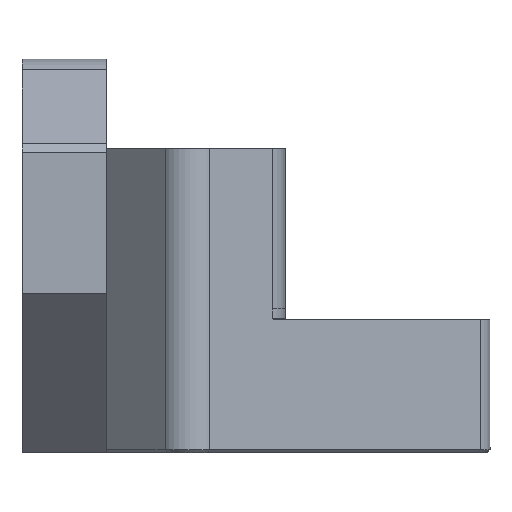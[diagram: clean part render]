
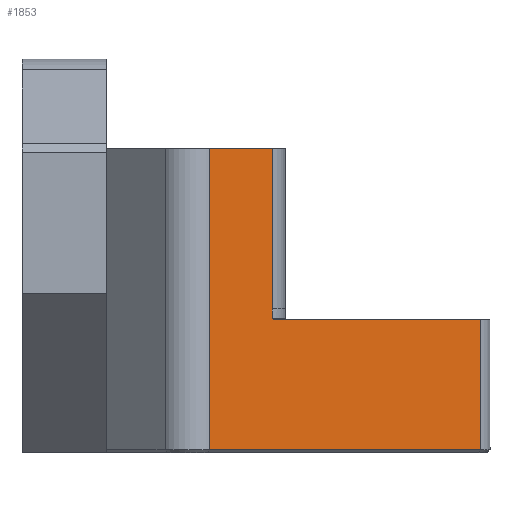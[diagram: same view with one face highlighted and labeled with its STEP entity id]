
A CAD part, left-side view. The second image highlights one B-rep face of the part: STEP entity #1853.
In plain terms, the highlighted planar face has unit normal (-0.707, -0.707, 0).
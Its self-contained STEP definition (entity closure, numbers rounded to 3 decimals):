
#129=FACE_OUTER_BOUND('',#238,.T.);
#238=EDGE_LOOP('',(#1475,#1476,#1477,#1478,#1479,#1480,#1481,#1482,#1483));
#437=LINE('',#2815,#603);
#515=LINE('',#3784,#681);
#521=LINE('',#3800,#687);
#522=LINE('',#3803,#688);
#523=LINE('',#3805,#689);
#524=LINE('',#3807,#690);
#525=LINE('',#3809,#691);
#526=LINE('',#3811,#692);
#527=LINE('',#3812,#693);
#603=VECTOR('',#2119,10.);
#681=VECTOR('',#2289,10.);
#687=VECTOR('',#2307,10.);
#688=VECTOR('',#2312,10.);
#689=VECTOR('',#2313,10.);
#690=VECTOR('',#2314,10.);
#691=VECTOR('',#2315,10.);
#692=VECTOR('',#2316,10.);
#693=VECTOR('',#2317,10.);
#783=VERTEX_POINT('',#2812);
#784=VERTEX_POINT('',#2814);
#872=VERTEX_POINT('',#3774);
#874=VERTEX_POINT('',#3780);
#879=VERTEX_POINT('',#3799);
#880=VERTEX_POINT('',#3804);
#881=VERTEX_POINT('',#3806);
#882=VERTEX_POINT('',#3808);
#883=VERTEX_POINT('',#3810);
#971=EDGE_CURVE('',#784,#783,#437,.F.);
#1099=EDGE_CURVE('',#872,#874,#515,.T.);
#1107=EDGE_CURVE('',#874,#879,#521,.T.);
#1109=EDGE_CURVE('',#784,#872,#522,.T.);
#1110=EDGE_CURVE('',#783,#880,#523,.T.);
#1111=EDGE_CURVE('',#880,#881,#524,.T.);
#1112=EDGE_CURVE('',#882,#881,#525,.T.);
#1113=EDGE_CURVE('',#883,#882,#526,.T.);
#1114=EDGE_CURVE('',#879,#883,#527,.T.);
#1475=ORIENTED_EDGE('',*,*,#1099,.F.);
#1476=ORIENTED_EDGE('',*,*,#1109,.F.);
#1477=ORIENTED_EDGE('',*,*,#971,.T.);
#1478=ORIENTED_EDGE('',*,*,#1110,.T.);
#1479=ORIENTED_EDGE('',*,*,#1111,.T.);
#1480=ORIENTED_EDGE('',*,*,#1112,.F.);
#1481=ORIENTED_EDGE('',*,*,#1113,.F.);
#1482=ORIENTED_EDGE('',*,*,#1114,.F.);
#1483=ORIENTED_EDGE('',*,*,#1107,.F.);
#1783=PLANE('',#1987);
#1853=ADVANCED_FACE('',(#129),#1783,.T.);
#1987=AXIS2_PLACEMENT_3D('',#3802,#2310,#2311);
#2119=DIRECTION('',(0.707,-0.707,0.));
#2289=DIRECTION('',(-0.707,0.707,0.));
#2307=DIRECTION('',(0.,0.,1.));
#2310=DIRECTION('center_axis',(-0.707,-0.707,0.));
#2311=DIRECTION('ref_axis',(0.707,-0.707,0.));
#2312=DIRECTION('',(0.,0.,-1.));
#2313=DIRECTION('',(0.,0.,1.));
#2314=DIRECTION('',(-0.707,0.707,0.));
#2315=DIRECTION('',(0.,0.,-1.));
#2316=DIRECTION('',(0.,0.,-1.));
#2317=DIRECTION('',(0.707,-0.707,0.));
#2812=CARTESIAN_POINT('',(8.88,40.192,-20.17));
#2814=CARTESIAN_POINT('',(22.898,26.174,-20.17));
#2815=CARTESIAN_POINT('',(9.553,39.519,-20.17));
#3774=CARTESIAN_POINT('',(22.898,26.174,-28.97));
#3780=CARTESIAN_POINT('',(4.55,44.522,-28.97));
#3784=CARTESIAN_POINT('',(10.867,38.206,-28.97));
#3799=CARTESIAN_POINT('',(4.55,44.522,-8.582));
#3800=CARTESIAN_POINT('',(4.55,44.522,-17.82));
#3802=CARTESIAN_POINT('Origin',(4.55,44.522,-28.87));
#3803=CARTESIAN_POINT('',(22.898,26.174,-27.223));
#3804=CARTESIAN_POINT('',(8.88,40.192,-20.07));
#3805=CARTESIAN_POINT('',(8.88,40.192,-19.27));
#3806=CARTESIAN_POINT('',(8.775,40.298,-20.07));
#3807=CARTESIAN_POINT('',(6.651,42.421,-20.07));
#3808=CARTESIAN_POINT('',(8.775,40.298,-19.42));
#3809=CARTESIAN_POINT('',(8.775,40.298,-19.42));
#3810=CARTESIAN_POINT('',(8.775,40.298,-8.582));
#3811=CARTESIAN_POINT('',(8.775,40.298,-23.598));
#3812=CARTESIAN_POINT('',(10.867,38.206,-8.582));
